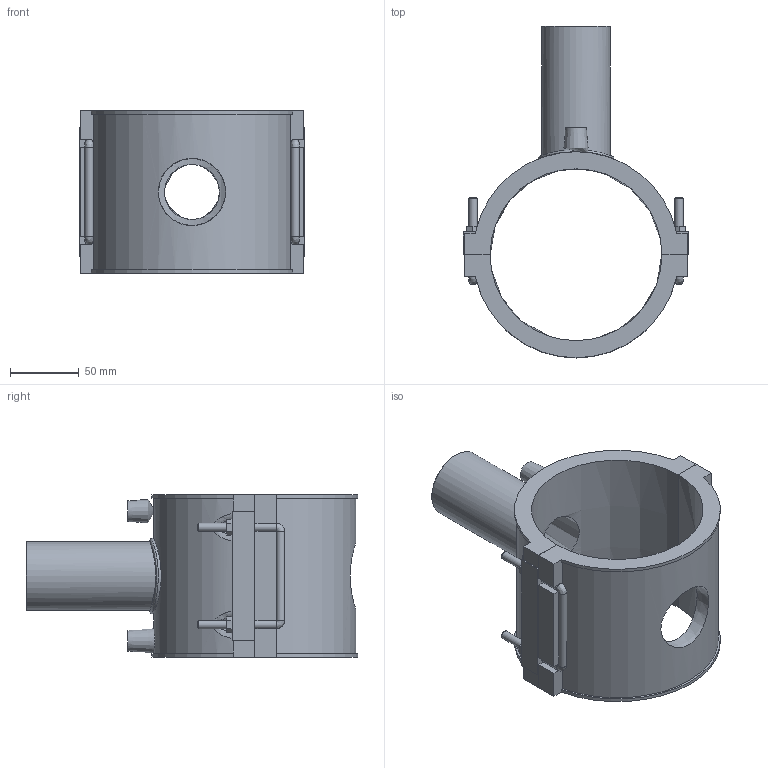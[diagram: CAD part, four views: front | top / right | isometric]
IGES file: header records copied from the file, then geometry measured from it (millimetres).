
Global section: file name: 495804125050.ipt; native system: Autodesk Inventor 2015; preprocessor: unknown; author: KIM; date: 20180426.120841; units: millimetre
Bounding box: 164 x 241.47 x 118 mm (x, y, z)
Volume: 665870.3 mm3; surface area: 159434.1 mm2
Topology: 2 solids, 2 shells, 133 faces, 340 edges, 214 vertices
Faces by surface type: plane 85, cylinder 22, revolution 10, bspline 9, cone 7
Full cylindrical faces by diameter (mm): 4 x2, 6 x10, 50 x1, 55 x1
